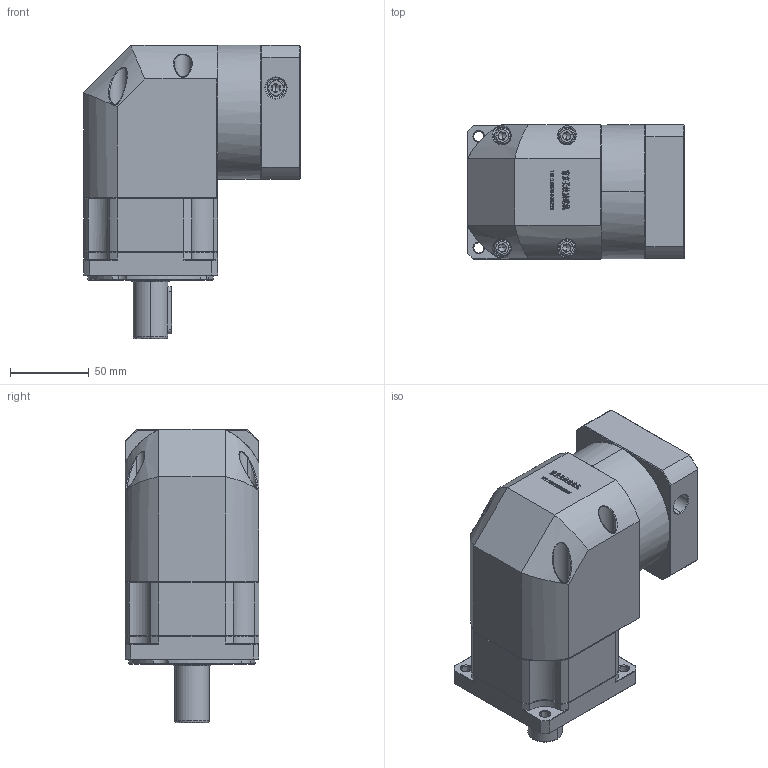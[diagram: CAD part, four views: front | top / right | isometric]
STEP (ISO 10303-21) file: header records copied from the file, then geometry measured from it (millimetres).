
FILE_DESCRIPTION (( 'STEP AP214' ), '1' );
FILE_NAME ('ZBR90-D22-L1-14-60-75-M5.step', '2022-05-07T15:10:21', ( '' ), ( 'Microsoft' ), 'SwSTEP 2.0', 'SolidWorks 2016', '' );
FILE_SCHEMA (( 'AUTOMOTIVE_DESIGN' ));
Length unit declared in the file: millimetre
Products named in the file (1): ZBR90-D22-L1-14-60-75-M5
Bounding box: 137.6 x 85 x 186 mm (x, y, z)
Volume: 1194356.6 mm3; surface area: 129138.4 mm2
Topology: 5 solids, 5 shells, 3015 faces, 7979 edges, 5097 vertices
Faces by surface type: plane 1596, bspline 603, cylinder 446, cone 344, torus 26
Entity records: 163479 total; most frequent: CARTESIAN_POINT 60518, ORIENTED_EDGE 15882, DIRECTION 12103, EDGE_CURVE 7941, LINE 5329, VECTOR 5329, VERTEX_POINT 5097, AXIS2_PLACEMENT_3D 3387
